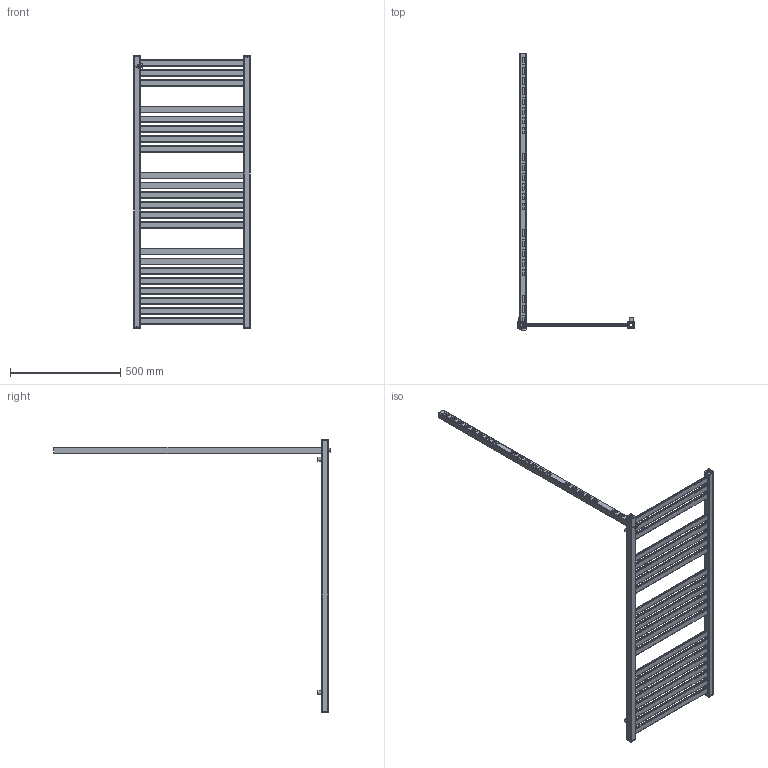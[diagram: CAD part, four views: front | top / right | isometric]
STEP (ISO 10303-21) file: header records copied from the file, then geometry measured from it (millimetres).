
FILE_DESCRIPTION( ( 'Unknown' ), '1' );
FILE_NAME( 'D:/Alplast sp. j/Witryna zespoBu - Projekty/Archiwum/Grzejniki Archiwum/Projekty/STANDARD/AK-EP/AK5-500EP.stp', 'Unknown', ( 'Unknown' ), ( 'Unknown' ), 'PSStep 10.1', 'Unknown', ' ' );
FILE_SCHEMA( ( 'AUTOMOTIVE_DESIGN { 1 0 10303 214 1 1 1 1 }' ) );
Length unit declared in the file: millimetre
Products named in the file (5): Assem1; kana³  poziomy 30x10  500; AK5-EPEL; zaslepka kwadrat otwor; mocowanie
Bounding box: 530 x 1254 x 1240.13 mm (x, y, z)
Volume: 1782549.1 mm3; surface area: 2388375.5 mm2
Topology: 36 solids, 36 shells, 1044 faces, 2886 edges, 1924 vertices
Faces by surface type: plane 594, cylinder 440, torus 10
Full cylindrical faces by diameter (mm): 16 x5, 18 x5, 18.631 x5, 23 x5
Entity records: 9986 total; most frequent: DIRECTION 1434, CARTESIAN_POINT 1389, ORIENTED_EDGE 1340, EDGE_CURVE 670, AXIS2_PLACEMENT_3D 495, VERTEX_POINT 450, LINE 444, VECTOR 444
